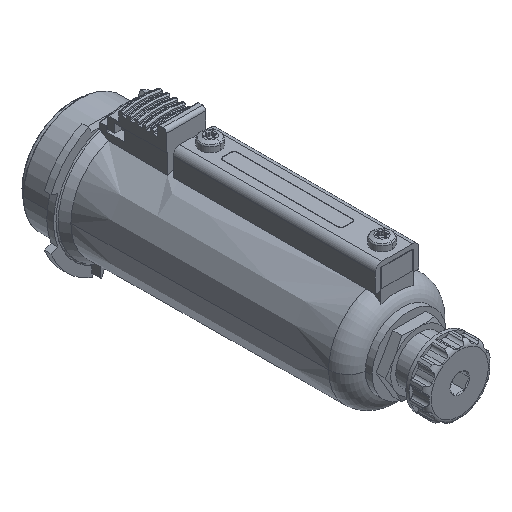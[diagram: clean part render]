
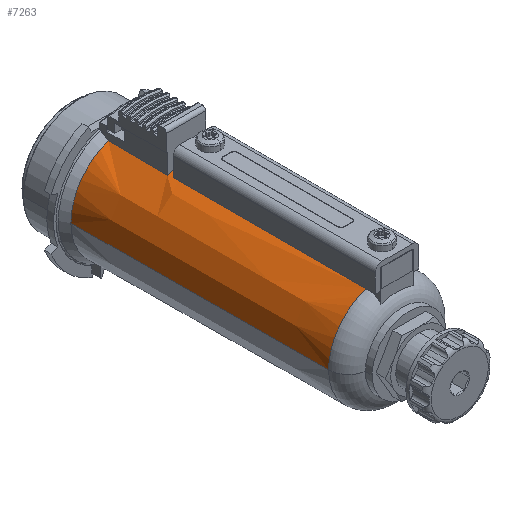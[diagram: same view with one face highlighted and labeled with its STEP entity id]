
A CAD part, isometric view. The second image highlights one B-rep face of the part: STEP entity #7263.
In plain terms, the highlighted conical face has half-angle 0.4 degrees and reference radius 16.32 mm.
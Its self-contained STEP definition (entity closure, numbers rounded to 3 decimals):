
#94=CARTESIAN_POINT('',(4.8,7.888,15.32));
#96=CARTESIAN_POINT('',(0.,7.888,0.));
#97=DIRECTION('',(0.,1.,0.));
#98=DIRECTION('',(0.299,0.,0.954));
#99=AXIS2_PLACEMENT_3D('',#96,#97,#98);
#111=CARTESIAN_POINT('',(0.,7.888,0.));
#112=DIRECTION('',(0.,1.,0.));
#113=DIRECTION('',(-1.,0.,0.));
#114=AXIS2_PLACEMENT_3D('',#111,#112,#113);
#257=CARTESIAN_POINT('',(0.,63.6,0.));
#258=DIRECTION('',(0.,1.,0.));
#259=DIRECTION('',(-0.292,0.,0.956));
#260=AXIS2_PLACEMENT_3D('',#257,#258,#259);
#262=CARTESIAN_POINT('',(-4.8,63.6,15.727));
#263=CARTESIAN_POINT('',(-4.8,57.411,15.682));
#264=CARTESIAN_POINT('',(-4.8,45.032,15.592));
#265=CARTESIAN_POINT('',(-4.8,26.461,15.456));
#266=CARTESIAN_POINT('',(-4.8,14.08,15.366));
#267=CARTESIAN_POINT('',(-4.8,7.888,15.32));
#269=DIRECTION('',(-0.007,1.,0.));
#270=VECTOR('',#269,75.99);
#271=CARTESIAN_POINT('',(-16.055,7.888,
0.));
#272=LINE('',#271,#270);
#273=CARTESIAN_POINT('',(-5.5,83.876,15.647));
#274=CARTESIAN_POINT('',(-5.5,81.923,15.632));
#275=CARTESIAN_POINT('',(-5.5,78.018,15.603));
#276=CARTESIAN_POINT('',(-5.5,72.159,15.56));
#277=CARTESIAN_POINT('',(-5.5,68.253,15.531));
#278=CARTESIAN_POINT('',(-5.5,66.3,15.516));
#280=CARTESIAN_POINT('',(5.5,66.3,15.516));
#281=CARTESIAN_POINT('',(5.5,68.253,15.531));
#282=CARTESIAN_POINT('',(5.5,72.159,15.56));
#283=CARTESIAN_POINT('',(5.5,78.018,15.603));
#284=CARTESIAN_POINT('',(5.5,81.923,15.632));
#285=CARTESIAN_POINT('',(5.5,83.876,15.647));
#287=CARTESIAN_POINT('',(4.8,7.888,15.32));
#288=CARTESIAN_POINT('',(4.8,14.08,15.366));
#289=CARTESIAN_POINT('',(4.8,26.461,15.456));
#290=CARTESIAN_POINT('',(4.8,45.032,15.592));
#291=CARTESIAN_POINT('',(4.8,57.411,15.682));
#292=CARTESIAN_POINT('',(4.8,63.6,15.727));
#294=DIRECTION('',(0.007,1.,0.));
#295=VECTOR('',#294,75.99);
#296=CARTESIAN_POINT('',(16.055,7.888,0.));
#297=LINE('',#296,#295);
#303=CARTESIAN_POINT('',(0.,83.876,0.));
#304=DIRECTION('',(0.,-1.,0.));
#305=DIRECTION('',(-0.332,0.,0.943));
#306=AXIS2_PLACEMENT_3D('',#303,#304,#305);
#308=CARTESIAN_POINT('',(0.,83.876,0.));
#309=DIRECTION('',(0.,-1.,0.));
#310=DIRECTION('',(1.,0.,0.));
#311=AXIS2_PLACEMENT_3D('',#308,#309,#310);
#1013=CARTESIAN_POINT('',(0.,66.3,0.));
#1014=DIRECTION('',(0.,-1.,0.));
#1015=DIRECTION('',(0.334,0.,0.943));
#1016=AXIS2_PLACEMENT_3D('',#1013,#1014,#1015);
#5714=CARTESIAN_POINT('',(16.055,7.888,0.));
#5715=VERTEX_POINT('',#5714);
#5716=CARTESIAN_POINT('',(-16.055,7.888,0.));
#5717=VERTEX_POINT('',#5716);
#5722=VERTEX_POINT('',#94);
#5723=CARTESIAN_POINT('',(-4.8,7.888,15.32));
#5724=VERTEX_POINT('',#5723);
#5729=VERTEX_POINT('',#262);
#5732=CARTESIAN_POINT('',(4.8,63.6,15.727));
#5733=VERTEX_POINT('',#5732);
#5734=CARTESIAN_POINT('',(-16.585,83.876,0.));
#5735=VERTEX_POINT('',#5734);
#5736=CARTESIAN_POINT('',(-5.5,83.876,15.647));
#5737=VERTEX_POINT('',#5736);
#5738=VERTEX_POINT('',#278);
#5739=CARTESIAN_POINT('',(5.5,66.3,15.516));
#5740=VERTEX_POINT('',#5739);
#5741=VERTEX_POINT('',#285);
#5742=CARTESIAN_POINT('',(16.585,83.876,0.));
#5743=VERTEX_POINT('',#5742);
#7236=CARTESIAN_POINT('',(0.,45.882,0.));
#7237=DIRECTION('',(0.,1.,0.));
#7238=DIRECTION('',(1.,0.,0.));
#7239=AXIS2_PLACEMENT_3D('',#7236,#7237,#7238);
#7240=CONICAL_SURFACE('',#7239,16.32,0.4);
#7241=ORIENTED_EDGE('',*,*,#7228,.F.);
#7242=ORIENTED_EDGE('',*,*,#7165,.T.);
#7243=ORIENTED_EDGE('',*,*,#7042,.F.);
#7245=ORIENTED_EDGE('',*,*,#7244,.T.);
#7247=ORIENTED_EDGE('',*,*,#7246,.F.);
#7249=ORIENTED_EDGE('',*,*,#7248,.T.);
#7251=ORIENTED_EDGE('',*,*,#7250,.F.);
#7253=ORIENTED_EDGE('',*,*,#7252,.T.);
#7255=ORIENTED_EDGE('',*,*,#7254,.F.);
#7257=ORIENTED_EDGE('',*,*,#7256,.F.);
#7258=ORIENTED_EDGE('',*,*,#7037,.F.);
#7260=ORIENTED_EDGE('',*,*,#7259,.T.);
#7261=EDGE_LOOP('',(#7241,#7242,#7243,#7245,#7247,#7249,#7251,#7253,#7255,#7257,
#7258,#7260));
#7262=FACE_OUTER_BOUND('',#7261,.F.);
#7263=ADVANCED_FACE('',(#7262),#7240,.T.);
#100=CIRCLE('',#99,16.055);
#115=CIRCLE('',#114,16.055);
#261=CIRCLE('',#260,16.444);
#268=B_SPLINE_CURVE_WITH_KNOTS('',3,(#262,#263,#264,#265,#266,#267),
.UNSPECIFIED.,.F.,.F.,(4,1,1,4),(0.,0.333,0.667,1.),
.UNSPECIFIED.);
#279=B_SPLINE_CURVE_WITH_KNOTS('',3,(#273,#274,#275,#276,#277,#278),
.UNSPECIFIED.,.F.,.F.,(4,1,1,4),(0.,0.333,0.667,1.),
.UNSPECIFIED.);
#286=B_SPLINE_CURVE_WITH_KNOTS('',3,(#280,#281,#282,#283,#284,#285),
.UNSPECIFIED.,.F.,.F.,(4,1,1,4),(0.,0.333,0.667,1.),
.UNSPECIFIED.);
#293=B_SPLINE_CURVE_WITH_KNOTS('',3,(#287,#288,#289,#290,#291,#292),
.UNSPECIFIED.,.F.,.F.,(4,1,1,4),(0.,0.333,0.667,1.),
.UNSPECIFIED.);
#307=CIRCLE('',#306,16.585);
#312=CIRCLE('',#311,16.585);
#1017=CIRCLE('',#1016,16.462);
#7037=EDGE_CURVE('',#5722,#5715,#100,.T.);
#7042=EDGE_CURVE('',#5717,#5724,#115,.T.);
#7165=EDGE_CURVE('',#5729,#5724,#268,.T.);
#7228=EDGE_CURVE('',#5729,#5733,#261,.T.);
#7244=EDGE_CURVE('',#5717,#5735,#272,.T.);
#7246=EDGE_CURVE('',#5737,#5735,#307,.T.);
#7248=EDGE_CURVE('',#5737,#5738,#279,.T.);
#7250=EDGE_CURVE('',#5740,#5738,#1017,.T.);
#7252=EDGE_CURVE('',#5740,#5741,#286,.T.);
#7254=EDGE_CURVE('',#5743,#5741,#312,.T.);
#7256=EDGE_CURVE('',#5715,#5743,#297,.T.);
#7259=EDGE_CURVE('',#5722,#5733,#293,.T.);
